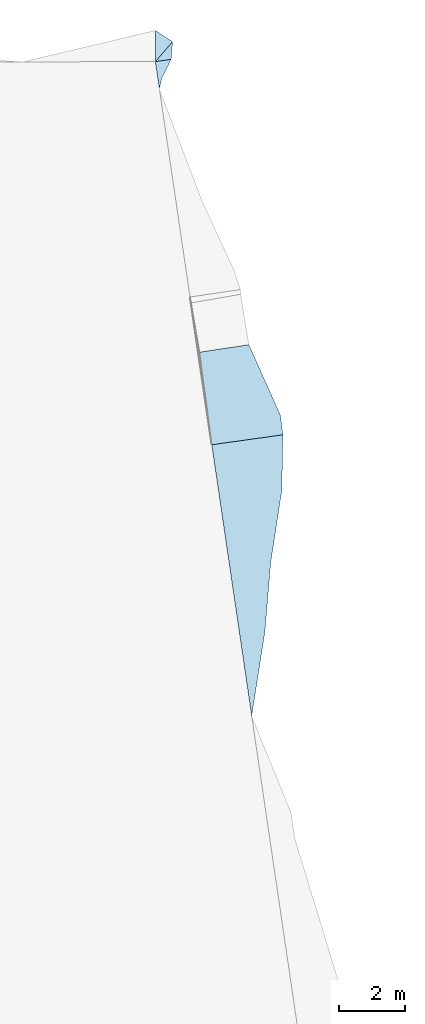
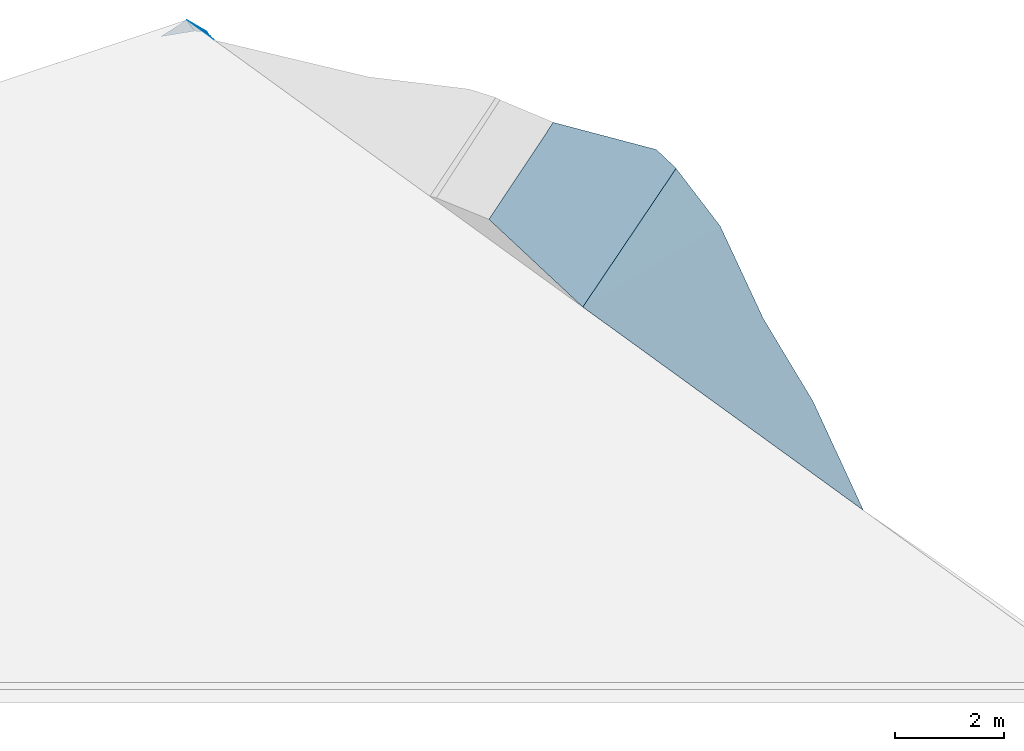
# One storey, part 7 of 14: 5 slabs.
"""IFC2X3 building model written with IfcOpenShell, lengths in metres."""

import ifcopenshell
import ifcopenshell.guid

model = None  # the IFC model being written
_history = None  # IfcOwnerHistory: only IFC2X3 demands one
_inside = {}  # id of a spatial element -> (the spatial element, [elements in it])
_under = {}  # id of a project, library or spatial element -> (it, [spatial elements below it])
_declared = {}  # id of a project -> (the project, [libraries it declares])
_typed = {}  # id of a type object -> (the type object, [elements of that type])
_made_of = {}  # id of a material, layer set ... -> (it, [elements and type objects made of it])


def new_model(schema):
    """Start an empty IFC model of exactly this schema.

    Asked for "IFC4X3", IfcOpenShell would pick the latest addendum, in which some entities
    have other attributes; the version numbers below select the first issue.
    IFC2X3 requires an IfcOwnerHistory on every rooted entity: one is made here for all.
    """
    global model, _history
    if schema == "IFC4X3":
        model = ifcopenshell.file(schema_version=(4, 3, 0, 0))
    else:
        model = ifcopenshell.file(schema=schema)
    _inside.clear()
    _under.clear()
    _declared.clear()
    _typed.clear()
    _made_of.clear()
    _history = None
    if model.schema == "IFC2X3":
        org = make("IfcOrganization", Name="unknown")
        user = make(
            "IfcPersonAndOrganization",
            ThePerson=make("IfcPerson", FamilyName="unknown"),
            TheOrganization=org,
        )
        app = make(
            "IfcApplication",
            ApplicationDeveloper=org,
            Version="unknown",
            ApplicationFullName="unknown",
            ApplicationIdentifier="unknown",
        )
        _history = make(
            "IfcOwnerHistory",
            OwningUser=user,
            OwningApplication=app,
            ChangeAction="ADDED",
            CreationDate=0,
        )
    return model


def make(cls, **values):
    """One entity of the class cls with the attributes given. An attribute that is None is left unset."""
    return model.create_entity(
        cls, **{name: value for name, value in values.items() if value is not None}
    )


def rooted(cls, **values):
    """An entity with a GlobalId (a new one), such as an element, a storey or a relation."""
    return make(cls, GlobalId=ifcopenshell.guid.new(), OwnerHistory=_history, **values)


def si_unit(unit_type, name, prefix=None):
    """IfcSIUnit, for example si_unit("LENGTHUNIT", "METRE", prefix="MILLI")."""
    return make("IfcSIUnit", UnitType=unit_type, Prefix=prefix, Name=name)


def assignment(units):
    """IfcUnitAssignment: the units of a project."""
    return None if units is None else make("IfcUnitAssignment", Units=units)


def point(xyz):
    """IfcCartesianPoint."""
    return None if xyz is None else make("IfcCartesianPoint", Coordinates=xyz)


def direction(xyz):
    """IfcDirection."""
    return None if xyz is None else make("IfcDirection", DirectionRatios=xyz)


def frame(location, z_axis=None, x_axis=None):
    """IfcAxis2Placement3D, a coordinate frame: its origin and axes. An axis left out is left unset."""
    return make(
        "IfcAxis2Placement3D",
        Location=point(location),
        Axis=direction(z_axis),
        RefDirection=direction(x_axis),
    )


def origin():
    """The frame at (0, 0, 0) with its axes left unset."""
    return frame((0.0, 0.0, 0.0))


def origin_with_axes():
    """The frame at (0, 0, 0) with the z axis (0, 0, 1) and the x axis (1, 0, 0) written out."""
    return frame((0.0, 0.0, 0.0), z_axis=(0.0, 0.0, 1.0), x_axis=(1.0, 0.0, 0.0))


def place(relative_to, where):
    """IfcLocalPlacement: puts the frame where relative to a parent placement (None: the world)."""
    return make(
        "IfcLocalPlacement", PlacementRelTo=relative_to, RelativePlacement=where
    )


def context(
    kind, dimensions, precision=None, world=None, true_north=None, identifier=None
):
    """IfcGeometricRepresentationContext, for example the 3D "Model" context."""
    return make(
        "IfcGeometricRepresentationContext",
        ContextIdentifier=identifier,
        ContextType=kind,
        CoordinateSpaceDimension=dimensions,
        Precision=precision,
        WorldCoordinateSystem=world,
        TrueNorth=true_north,
    )


def subcontext(parent, identifier, kind, view, scale=None):
    """IfcGeometricRepresentationSubContext, for example "Body" below "Model"."""
    return make(
        "IfcGeometricRepresentationSubContext",
        ContextIdentifier=identifier,
        ContextType=kind,
        ParentContext=parent,
        TargetScale=scale,
        TargetView=view,
    )


def project(units=None, contexts=None):
    """IfcProject with its units and contexts."""
    return rooted(
        "IfcProject",
        Name="project",
        RepresentationContexts=contexts,
        UnitsInContext=assignment(units),
    )


def spatial(cls, under=None, at=None, **own):
    """A site, building, storey or space (cls), placed at a placement, below another one or the project."""
    s = rooted(cls, ObjectPlacement=at, **own)
    if under is not None:
        _under.setdefault(under.id(), (under, []))[1].append(s)
    return s


def faces_of(points, faces, orient=None, outer=None):
    """IfcFace entities. A face is a list of loops; a loop is a list of indices into points, from 0.

    orient and outer hold one flag for each loop. By default every Orientation is true, the
    first loop of a face is its IfcFaceOuterBound and the others are IfcFaceBound.
    """
    made = []
    for i, loops in enumerate(faces):
        bounds = []
        for j, loop in enumerate(loops):
            is_outer = j == 0 if outer is None else outer[i][j]
            bounds.append(
                make(
                    "IfcFaceOuterBound" if is_outer else "IfcFaceBound",
                    Bound=make("IfcPolyLoop", Polygon=[points[k] for k in loop]),
                    Orientation=True if orient is None else orient[i][j],
                )
            )
        made.append(make("IfcFace", Bounds=bounds))
    return made


def faceted_brep(points, faces, orient=None, outer=None, voids=None):
    """IfcFacetedBrep: a solid bounded by flat faces; with voids (closed shells), ...WithVoids."""
    shared = [point(p) for p in points]
    hull = make("IfcClosedShell", CfsFaces=faces_of(shared, faces, orient, outer))
    if voids is None:
        return make("IfcFacetedBrep", Outer=hull)
    return make(
        "IfcFacetedBrepWithVoids",
        Outer=hull,
        Voids=[
            make(cls, CfsFaces=faces_of(shared, fs, o, b)) for cls, fs, o, b in voids
        ],
    )


def shape(context_of_items, identifier, shape_type, items):
    """IfcShapeRepresentation: the items that make up one representation, for example the "Body"."""
    return make(
        "IfcShapeRepresentation",
        ContextOfItems=context_of_items,
        RepresentationIdentifier=identifier,
        RepresentationType=shape_type,
        Items=items,
    )


def made_of(thing, what):
    """Note that an element or type object is made of a material, layer set ...; save() writes the relation."""
    if what is not None:
        _made_of.setdefault(what.id(), (what, []))[1].append(thing)
    return thing


def element(
    cls,
    number,
    at=None,
    inside=None,
    cuts=None,
    type_object=None,
    material=None,
    context=None,
    identifier="Body",
    shape_type=None,
    held_by="IfcProductDefinitionShape",
    body=None,
    shapes=None,
    **own,
):
    """One element of the class cls, such as IfcWall. Its Tag is "e" and its number.

    at: its placement. inside: the storey or other place that contains it. cuts: it is an
    opening in that element (IfcRelVoidsElement). A single representation is given by context,
    identifier, shape_type and body (its items); several are given by shapes. held_by: the class
    of the entity that holds the representations. save() writes the other relations.
    """
    e = rooted(cls, Tag="e%d" % number, ObjectPlacement=at, **own)
    if body is not None:
        shapes = [shape(context, identifier, shape_type, body)]
    if shapes is not None:
        e.Representation = make(held_by, Representations=shapes)
    if inside is not None:
        _inside.setdefault(inside.id(), (inside, []))[1].append(e)
    if cuts is not None:
        rooted(
            "IfcRelVoidsElement", RelatingBuildingElement=cuts, RelatedOpeningElement=e
        )
    if type_object is not None:
        _typed.setdefault(type_object.id(), (type_object, []))[1].append(e)
    return made_of(e, material)


def aggregate(whole, parts):
    """IfcRelAggregates: a whole, such as a stair, and the parts it consists of."""
    return rooted("IfcRelAggregates", RelatingObject=whole, RelatedObjects=parts)


def save(model, path):
    """Write the relations noted so far, then the file.

    IfcRelAggregates (storeys below a building ...), IfcRelContainedInSpatialStructure (elements
    in a storey), IfcRelDefinesByType, IfcRelAssociatesMaterial and IfcRelDeclares: one each for
    every whole, place, type object, material and project.
    """
    for whole, parts in _under.values():
        aggregate(whole, parts)
    for where, things in _inside.values():
        rooted(
            "IfcRelContainedInSpatialStructure",
            RelatedElements=things,
            RelatingStructure=where,
        )
    for kind, things in _typed.values():
        rooted("IfcRelDefinesByType", RelatedObjects=things, RelatingType=kind)
    for what, things in _made_of.values():
        rooted("IfcRelAssociatesMaterial", RelatedObjects=things, RelatingMaterial=what)
    for by, libraries in _declared.values():
        rooted("IfcRelDeclares", RelatingContext=by, RelatedDefinitions=libraries)
    model.write(path)


model = new_model("IFC2X3")

# Units and contexts
context_of_model = context(None, 3, world=origin_with_axes())
sub_context = subcontext(context_of_model, None, None, "MODEL_VIEW")
ifc_project = project(units=[si_unit("LENGTHUNIT", "METRE"), si_unit("AREAUNIT", "SQUARE_METRE"), si_unit("VOLUMEUNIT", "CUBIC_METRE"), si_unit("PLANEANGLEUNIT", "RADIAN"), si_unit("MASSUNIT", "GRAM", prefix="KILO")])

# Site, building, storey
site_placement = place(None, origin_with_axes())
site = spatial("IfcSite", under=ifc_project, at=site_placement, Name="Site.1", CompositionType="ELEMENT")
building_placement = place(site_placement, origin())
building = spatial("IfcBuilding", under=site, at=building_placement, Name="Building.1", CompositionType="ELEMENT")
storey_placement = place(building_placement, origin())
storey = spatial("IfcBuildingStorey", under=building, at=storey_placement, Name="VRD", CompositionType="ELEMENT")

# Slabs
slab_1_placement = place(storey_placement, origin())
element("IfcSlab", 1, at=slab_1_placement, inside=storey, Name="PJ FINI n°71", PredefinedType="USERDEFINED", context=sub_context, shape_type="Brep", body=[
    faceted_brep([(68.654587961, 36.306524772, -1e-06), (69.131200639, 36.376697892, -0.481751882), (68.844559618, 35.79201037, -0.113000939), (68.774644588, 35.491105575, -1e-06)], [[[0, 1, 2]], [[0, 2, 3]]]),
])
slab_2_placement = place(storey_placement, origin())
element("IfcSlab", 2, at=slab_2_placement, inside=storey, Name="PJ FINI n°72", PredefinedType="USERDEFINED", context=sub_context, shape_type="Brep", body=[
    faceted_brep([(69.98401667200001, 27.548569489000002, 0.395421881), (72.423145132, 25.651469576, 2.25), (70.354932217, 24.757863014, -1e-06), (72.500412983, 25.058369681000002, 2.164445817), (72.498183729, 25.058057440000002, 2.162196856), (71.474230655, 27.774210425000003, 1.901375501)], [[[0, 1, 2]], [[1, 3, 4]], [[1, 4, 2]], [[5, 1, 0]]]),
])
slab_3_placement = place(storey_placement, origin())
element("IfcSlab", 3, at=slab_3_placement, inside=storey, Name="PJ FINI n°76", PredefinedType="USERDEFINED", context=sub_context, shape_type="Brep", body=[
    faceted_brep([(70.354932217, 24.757863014, -2e-06), (72.136501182, 21.239010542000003, 1.25), (71.95526873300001, 19.110306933, 0.760627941), (71.559021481, 16.579742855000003, -1.701e-06), (72.46961971, 23.39531651, 1.893658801), (72.498183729, 25.058057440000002, 2.162196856)], [[[0, 1, 2]], [[2, 3, 0]], [[4, 1, 0]], [[5, 4, 0]]]),
])
slab_4_placement = place(storey_placement, origin())
element("IfcSlab", 4, at=slab_4_placement, inside=storey, Name="PJ FINI n°104", PredefinedType="USERDEFINED", context=sub_context, shape_type="Brep", body=[
    faceted_brep([(68.654587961, 36.306524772, -1e-06), (68.653354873, 37.250817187, -0.944294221), (69.17488554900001, 36.90983236, -0.796675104)], [[[0, 1, 2]]]),
])
slab_5_placement = place(storey_placement, origin())
element("IfcSlab", 5, at=slab_5_placement, inside=storey, Name="PJ FINI n°106", PredefinedType="USERDEFINED", context=sub_context, shape_type="Brep", body=[
    faceted_brep([(69.17488554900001, 36.90983236, -0.796675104), (69.131200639, 36.376697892, -0.481751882), (68.654587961, 36.306524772, -1e-06)], [[[0, 1, 2]]]),
])

save(model, "model.ifc")
